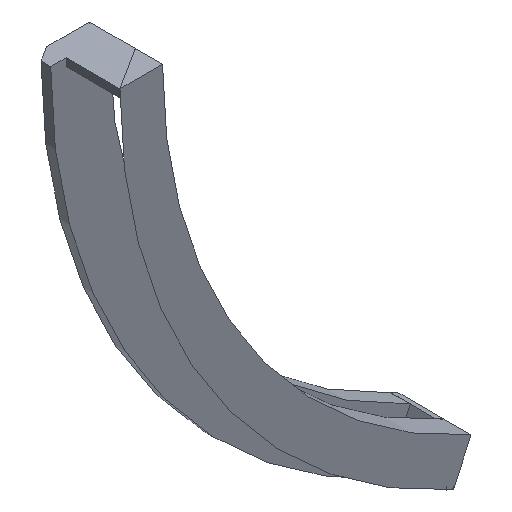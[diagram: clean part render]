
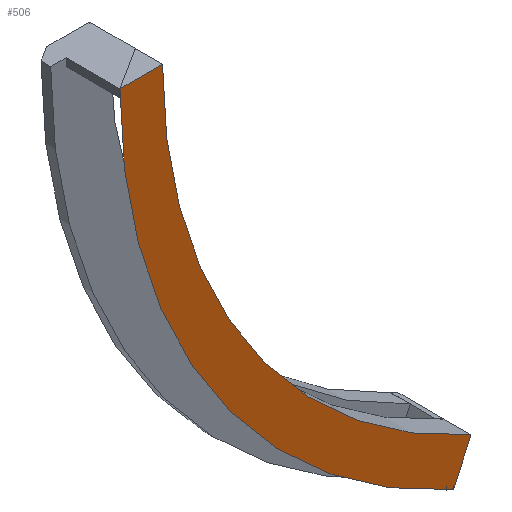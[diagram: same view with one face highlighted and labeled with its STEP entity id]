
A CAD part, isometric view. The second image highlights one B-rep face of the part: STEP entity #506.
In plain terms, the highlighted planar face has unit normal (0, -1, 0).
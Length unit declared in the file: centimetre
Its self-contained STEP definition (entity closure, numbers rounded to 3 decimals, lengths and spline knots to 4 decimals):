
#115=CIRCLE('',#767,21.3335);
#116=CIRCLE('',#769,23.081);
#161=VECTOR('',#615,1.);
#162=VECTOR('',#616,1.);
#207=LINE('',#738,#161);
#208=LINE('',#739,#162);
#214=VERTEX_POINT('',#635);
#238=VERTEX_POINT('',#697);
#243=VERTEX_POINT('',#730);
#244=VERTEX_POINT('',#733);
#303=EDGE_CURVE('',#244,#243,#115,.T.);
#304=EDGE_CURVE('',#238,#214,#116,.T.);
#305=EDGE_CURVE('',#214,#243,#207,.T.);
#306=EDGE_CURVE('',#244,#238,#208,.T.);
#421=ORIENTED_EDGE('',*,*,#305,.T.);
#422=ORIENTED_EDGE('',*,*,#303,.F.);
#423=ORIENTED_EDGE('',*,*,#306,.T.);
#424=ORIENTED_EDGE('',*,*,#304,.T.);
#454=EDGE_LOOP('',(#421,#422,#423,#424));
#480=FACE_BOUND('',#454,.T.);
#506=ADVANCED_FACE('',(#480),#523,.T.);
#523=PLANE('',#770);
#608=DIRECTION('',(0.,-1.,0.));
#609=DIRECTION('',(-21.333,0.,0.));
#612=DIRECTION('',(0.,-1.,0.));
#613=DIRECTION('',(-23.081,0.,0.));
#614=DIRECTION('',(0.,-1.,0.));
#615=DIRECTION('',(0.407,0.,0.914));
#616=DIRECTION('',(-1.,0.,0.));
#635=CARTESIAN_POINT('',(14.3281,-2.2047,-21.0855));
#697=CARTESIAN_POINT('',(0.635,-2.2047,0.));
#730=CARTESIAN_POINT('',(15.0389,-2.2047,-19.4891));
#733=CARTESIAN_POINT('',(2.3825,-2.2047,0.));
#734=CARTESIAN_POINT('',(23.716,-2.2047,0.));
#736=CARTESIAN_POINT('',(23.716,-2.2047,0.));
#737=CARTESIAN_POINT('',(1.5088,-2.2047,0.));
#738=CARTESIAN_POINT('',(15.0389,-2.2047,-19.4891));
#739=CARTESIAN_POINT('',(2.3825,-2.2047,0.));
#767=AXIS2_PLACEMENT_3D('',#734,#608,#609);
#769=AXIS2_PLACEMENT_3D('',#736,#612,#613);
#770=AXIS2_PLACEMENT_3D('',#737,#614,$);
